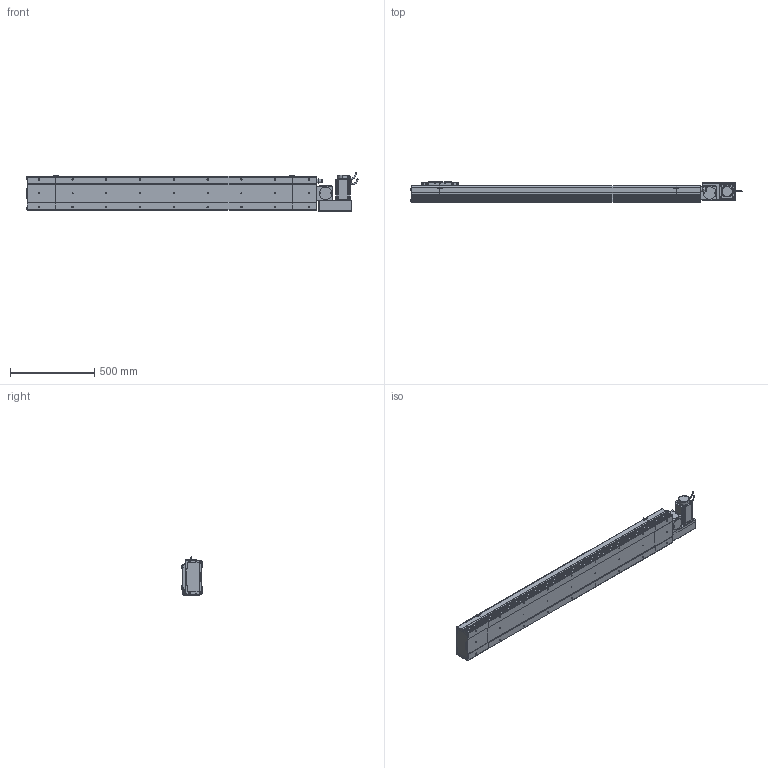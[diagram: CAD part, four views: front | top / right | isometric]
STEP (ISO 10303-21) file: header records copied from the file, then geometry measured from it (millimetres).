
FILE_DESCRIPTION (( 'STEP AP214' ), '1' );
FILE_NAME ('D20 CBH RH S1400.STEP', '2010-06-30T09:27:28', ( 'Conseil Régional Haute-Normandie' ), ( 'Conseil Régional Haute-Normandie' ), 'SwSTEP 2.0', 'SolidWorks 2010', '' );
FILE_SCHEMA (( 'AUTOMOTIVE_DESIGN' ));
Length unit declared in the file: millimetre
Products named in the file (31): Moteur motionking 90BLDC125A-640; codeur 90BLDC125-640; vis M5 L30_Default; avant 90BLDC125A-640; corps 90BLDC125A-640; Conecteur2_Default; ecrou_Default; Conecteur_Default; Cache Support Moteur RH_Default; Glissiere_Default; Support Chariot D20_Default; Chariot D20_Default; Plaque De Serrage D20_Default; Tail D20_Default; vis M5 L15_Default; Plaque de Bout Tail D20_Default; Couvercle_Default; Corp Tail D20_Default; Couvercle S1400_Default; Corp S1400_Default; Corp D20 S1400_Default; vis M5 L47_Default; Head D20 RH_Default; D20 CBH RH S1400; Plaque de Bout Head D20 RH_Default; Couvercle RH_Default; Corp Tail D20 RH_Default; Support moteur RH_Default; Rondelle Cache D20 RH_Default; Plaque De Serrage D20 RH_Default
Assembly tree (68 placements, depth 4):
  D20 CBH RH S1400
    Tail D20_Default
      Couvercle_Default
      vis M5 L15_Default  x6
      Plaque de Bout Tail D20_Default
      Corp Tail D20_Default
      Plaque De Serrage D20_Default
    Corp D20 S1400_Default
      Couvercle S1400_Default
      Corp S1400_Default
    Chariot D20_Default
      vis M5 L15_Default  x8
      Chariot D20_Default
      Glissiere_Default
      Support Chariot D20_Default
    Head D20 RH_Default
      vis M5 L47_Default  x4
      vis M5 L30_Default  x4
      vis M5 L15_Default  x14
      Moteur motionking 90BLDC125A-640
        Conecteur_Default
        Conecteur2_Default
        codeur 90BLDC125-640
        corps 90BLDC125A-640
        avant 90BLDC125A-640
      Cache Support Moteur RH_Default
      ecrou_Default  x4
      Rondelle Cache D20 RH_Default  x3
      Plaque de Bout Head D20 RH_Default
      Corp Tail D20 RH_Default
      Plaque De Serrage D20 RH_Default
      Support moteur RH_Default
      Couvercle RH_Default
Bounding box: 1965.45 x 119.5 x 229.7 mm (x, y, z)
Volume: 13134162.2 mm3; surface area: 2611160.7 mm2
Topology: 105 solids, 105 shells, 3790 faces, 9444 edges, 6130 vertices
Faces by surface type: plane 2119, bspline 806, cylinder 694, torus 95, cone 72, sphere 4
Entity records: 158702 total; most frequent: CARTESIAN_POINT 82196, ORIENTED_EDGE 15156, DIRECTION 11470, EDGE_CURVE 7578, VERTEX_POINT 5014, LINE 4918, VECTOR 4918, AXIS2_PLACEMENT_3D 3276
